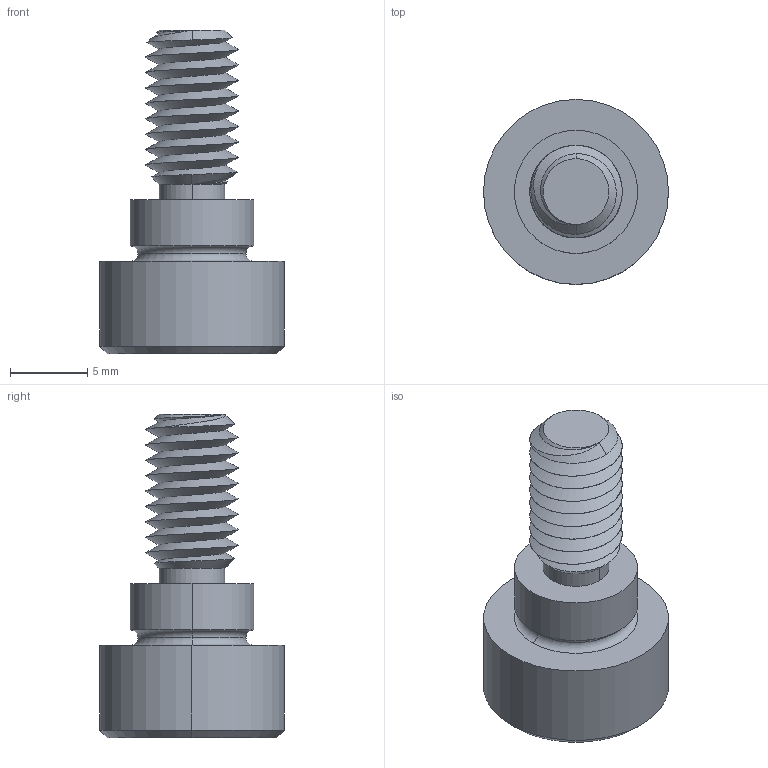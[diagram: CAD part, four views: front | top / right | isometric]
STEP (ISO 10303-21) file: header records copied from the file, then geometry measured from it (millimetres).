
FILE_DESCRIPTION (( 'STEP AP203' ), '1' );
FILE_NAME ('P0130.080-004-B2.step', '2021-11-09T21:32:45', ( '' ), ( '' ), 'SwSTEP 2.0', 'SolidWorks 2019', '' );
FILE_SCHEMA (( 'CONFIG_CONTROL_DESIGN' ));
Length unit declared in the file: millimetre
Products named in the file (1): P0130.080-004-B2
Bounding box: 12 x 12 x 21 mm (x, y, z)
Volume: 1026.1 mm3; surface area: 933.4 mm2
Topology: 1 solids, 1 shells, 60 faces, 142 edges, 85 vertices
Faces by surface type: cylinder 24, plane 16, cone 14, torus 4, bspline 2
Entity records: 4245 total; most frequent: CARTESIAN_POINT 2899, ORIENTED_EDGE 280, DIRECTION 247, EDGE_CURVE 140, AXIS2_PLACEMENT_3D 99, VERTEX_POINT 85, EDGE_LOOP 63, ADVANCED_FACE 60
